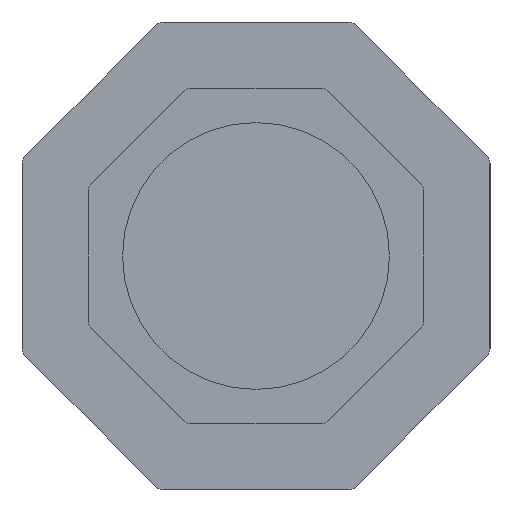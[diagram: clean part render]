
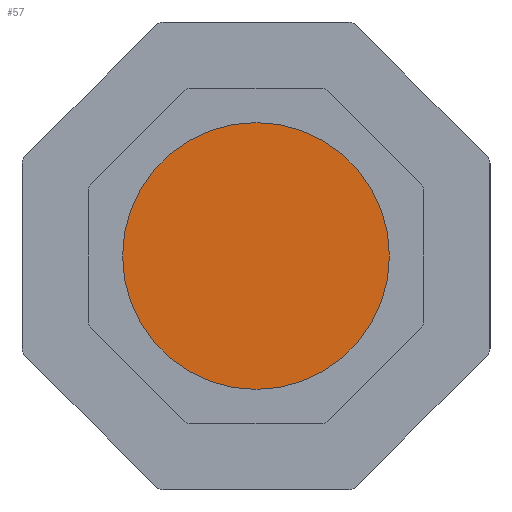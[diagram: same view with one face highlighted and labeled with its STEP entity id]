
A CAD part, left-side view. The second image highlights one B-rep face of the part: STEP entity #57.
In plain terms, the highlighted planar face has unit normal (-1, 0, 0).
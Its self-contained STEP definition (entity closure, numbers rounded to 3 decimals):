
#57=ADVANCED_FACE('',(#1047),#1049,.F.);
#1047=FACE_BOUND('',#1048,.T.);
#1048=EDGE_LOOP('',(#1834));
#1049=PLANE('',#1050);
#1050=AXIS2_PLACEMENT_3D('',#1051,#1052,#1053);
#1051=CARTESIAN_POINT('',(2370.304,1434.327,-6.8));
#1052=DIRECTION('',(1.,0.,0.));
#1053=DIRECTION('',(0.,0.,-1.));
#1834=ORIENTED_EDGE('',*,*,#2428,.F.);
#2428=EDGE_CURVE('',#2726,#2726,#2727,.T.);
#2726=VERTEX_POINT('',#3226);
#2727=CIRCLE('',#3227,32.5);
#3226=CARTESIAN_POINT('',(2370.304,1401.827,-6.8));
#3227=AXIS2_PLACEMENT_3D('',#3228,#3229,#3230);
#3228=CARTESIAN_POINT('',(2370.304,1434.327,-6.8));
#3229=DIRECTION('',(1.,0.,0.));
#3230=DIRECTION('',(0.,-1.,0.));
